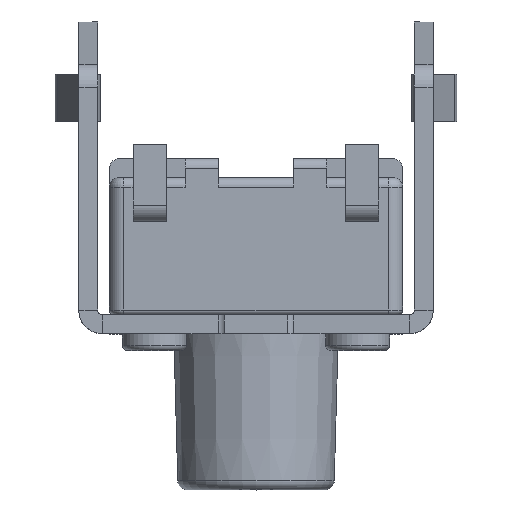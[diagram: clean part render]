
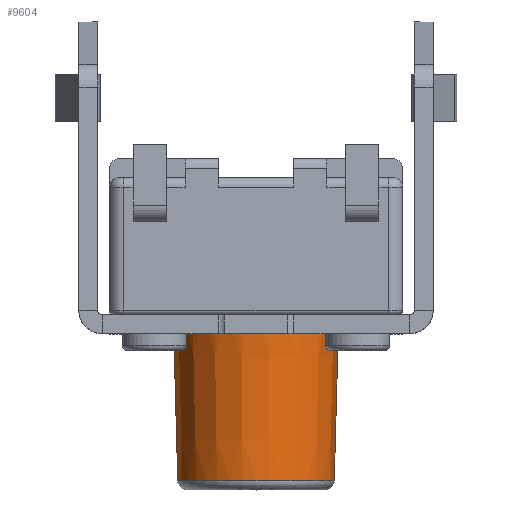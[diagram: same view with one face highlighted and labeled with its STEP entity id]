
A CAD part, top view. The second image highlights one B-rep face of the part: STEP entity #9604.
In plain terms, the highlighted conical face has half-angle 1.548 degrees and reference radius 1.75 mm.
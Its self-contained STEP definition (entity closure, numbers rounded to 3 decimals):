
#2759 = CARTESIAN_POINT ( 'NONE',  ( 1.75, 0., 3.3 ) ) ;
#2760 = CARTESIAN_POINT ( 'NONE',  ( -1.75, 0., 3.3 ) ) ;
#2761 = DIRECTION ( 'NONE',  ( -0.027, 0., -1. ) ) ;
#2762 = VECTOR ( 'NONE', #2761, 1000. ) ;
#2763 = CARTESIAN_POINT ( 'NONE',  ( -1.75, 0., 3.3 ) ) ;
#2764 = LINE ( 'NONE', #2763, #2762 ) ;
#2765 = CARTESIAN_POINT ( 'NONE',  ( -1.655, 0., 6.805 ) ) ;
#2766 = CARTESIAN_POINT ( 'NONE',  ( 1.655, 0., 6.805 ) ) ;
#2830 = DIRECTION ( 'NONE',  ( 0.027, 0., -1. ) ) ;
#2831 = VECTOR ( 'NONE', #2830, 1000. ) ;
#2832 = CARTESIAN_POINT ( 'NONE',  ( 1.75, 0., 3.3 ) ) ;
#2833 = LINE ( 'NONE', #2832, #2831 ) ;
#4312 = DIRECTION ( 'NONE',  ( 1., 0., 0. ) ) ;
#4313 = DIRECTION ( 'NONE',  ( 0., 0., -1. ) ) ;
#4314 = CARTESIAN_POINT ( 'NONE',  ( 0., 0., 6.805 ) ) ;
#4315 = AXIS2_PLACEMENT_3D ( 'NONE', #4314, #4313, #4312 ) ;
#4316 = CIRCLE ( 'NONE', #4315, 1.655 ) ;
#4516 = FACE_OUTER_BOUND ( 'NONE', #9597, .T. ) ;
#4546 = DIRECTION ( 'NONE',  ( 1., 0., 0. ) ) ;
#4547 = DIRECTION ( 'NONE',  ( 0., 0., -1. ) ) ;
#4548 = AXIS2_PLACEMENT_3D ( 'NONE', #4552, #4547, #4546 ) ;
#4549 = CONICAL_SURFACE ( 'NONE', #4548, 1.75, 0.027 ) ;
#4552 = CARTESIAN_POINT ( 'NONE',  ( 0., 0., 3.3 ) ) ;
#4576 = DIRECTION ( 'NONE',  ( 1., 0., 0. ) ) ;
#4577 = DIRECTION ( 'NONE',  ( 0., 0., -1. ) ) ;
#4578 = CARTESIAN_POINT ( 'NONE',  ( 0., 0., 3.3 ) ) ;
#4579 = AXIS2_PLACEMENT_3D ( 'NONE', #4578, #4577, #4576 ) ;
#4580 = CIRCLE ( 'NONE', #4579, 1.75 ) ;
#9003 = VERTEX_POINT ( 'NONE', #2766 ) ;
#9004 = VERTEX_POINT ( 'NONE', #2765 ) ;
#9006 = EDGE_CURVE ( 'NONE', #9004, #9007, #2764, .T. ) ;
#9007 = VERTEX_POINT ( 'NONE', #2760 ) ;
#9008 = VERTEX_POINT ( 'NONE', #2759 ) ;
#9022 = EDGE_CURVE ( 'NONE', #9003, #9008, #2833, .T. ) ;
#9541 = EDGE_CURVE ( 'NONE', #9004, #9003, #4316, .T. ) ;
#9597 = EDGE_LOOP ( 'NONE', ( #9609, #9603, #9611, #9610 ) ) ;
#9603 = ORIENTED_EDGE ( 'NONE', *, *, #9541, .T. ) ;
#9604 = ADVANCED_FACE ( 'NONE', ( #4516 ), #4549, .T. ) ;
#9609 = ORIENTED_EDGE ( 'NONE', *, *, #9006, .F. ) ;
#9610 = ORIENTED_EDGE ( 'NONE', *, *, #9612, .F. ) ;
#9611 = ORIENTED_EDGE ( 'NONE', *, *, #9022, .T. ) ;
#9612 = EDGE_CURVE ( 'NONE', #9007, #9008, #4580, .T. ) ;
